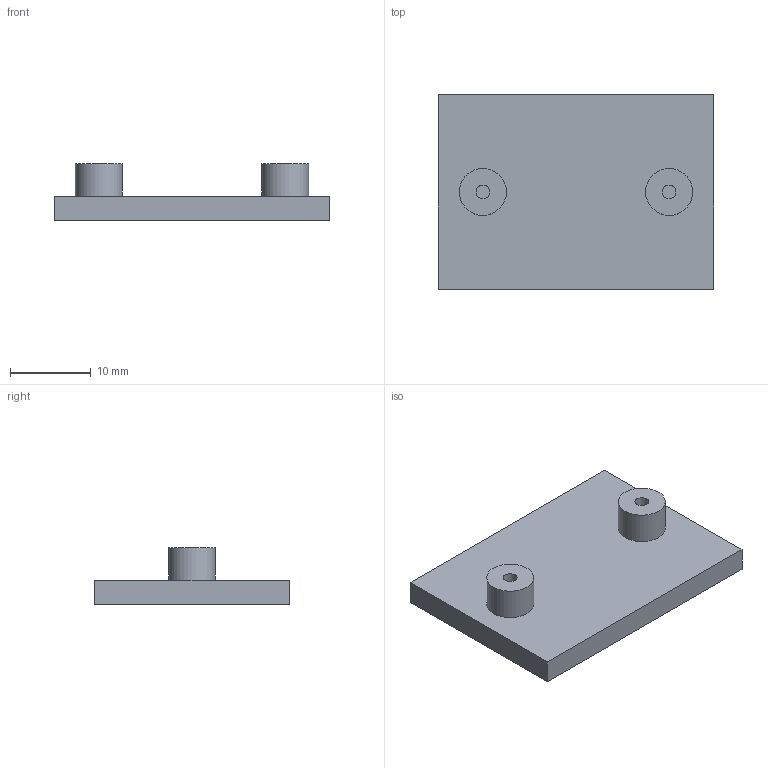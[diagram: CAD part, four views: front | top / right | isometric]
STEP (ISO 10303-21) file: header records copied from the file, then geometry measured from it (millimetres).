
FILE_DESCRIPTION(('Open CASCADE Model'),'2;1');
FILE_NAME('Open CASCADE Shape Model','2026-09-15T13:32:55',('Author'),( 'Open CASCADE'),'Open CASCADE STEP processor 7.7','Open CASCADE 7.7' ,'Unknown');
FILE_SCHEMA(('AUTOMOTIVE_DESIGN { 1 0 10303 214 1 1 1 1 }'));
Length unit declared in the file: millimetre
Products named in the file (1): QP05_MIC_FRAME_FIXTURE
Bounding box: 34 x 24 x 7 mm (x, y, z)
Volume: 2643.7 mm3; surface area: 2162.6 mm2
Topology: 1 solids, 1 shells, 14 faces, 24 edges, 16 vertices
Faces by surface type: plane 10, cylinder 4
Full cylindrical faces by diameter (mm): 1.7 x2, 5.8 x2
Entity records: 658 total; most frequent: DIRECTION 110, CARTESIAN_POINT 103, LINE 56, VECTOR 56, ORIENTED_EDGE 48, PCURVE 48, DEFINITIONAL_REPRESENTATION 48, EDGE_CURVE 24
